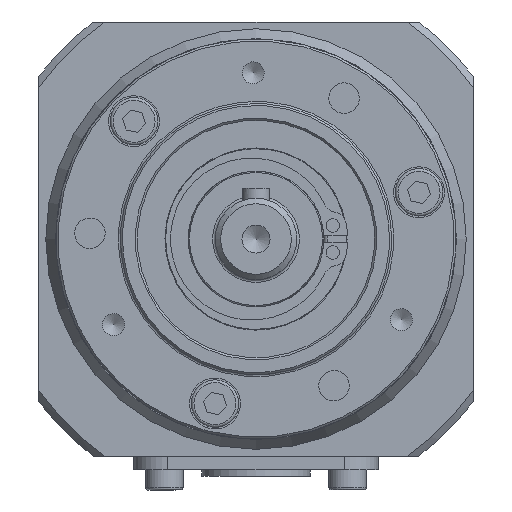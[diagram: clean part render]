
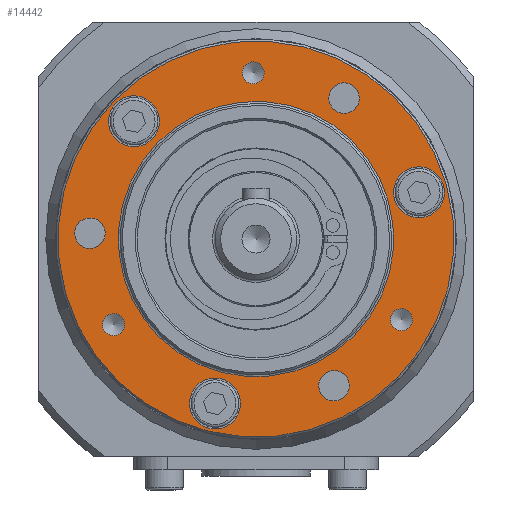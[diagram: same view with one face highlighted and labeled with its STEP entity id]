
A CAD part, left-side view. The second image highlights one B-rep face of the part: STEP entity #14442.
In plain terms, the highlighted planar face has unit normal (-1, 0, 0).
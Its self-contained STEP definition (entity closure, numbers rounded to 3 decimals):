
#3241=FACE_BOUND('',#4864,.T.);
#3242=FACE_BOUND('',#4865,.T.);
#3243=FACE_BOUND('',#4866,.T.);
#3244=FACE_BOUND('',#4867,.T.);
#3245=FACE_BOUND('',#4868,.T.);
#3246=FACE_BOUND('',#4869,.T.);
#3247=FACE_BOUND('',#4870,.T.);
#3248=FACE_BOUND('',#4871,.T.);
#3249=FACE_BOUND('',#4872,.T.);
#3250=FACE_BOUND('',#4873,.T.);
#3915=FACE_OUTER_BOUND('',#4863,.T.);
#4863=EDGE_LOOP('',(#11688));
#4864=EDGE_LOOP('',(#11689));
#4865=EDGE_LOOP('',(#11690));
#4866=EDGE_LOOP('',(#11691));
#4867=EDGE_LOOP('',(#11692));
#4868=EDGE_LOOP('',(#11693));
#4869=EDGE_LOOP('',(#11694));
#4870=EDGE_LOOP('',(#11695));
#4871=EDGE_LOOP('',(#11696));
#4872=EDGE_LOOP('',(#11697));
#4873=EDGE_LOOP('',(#11698));
#5410=CIRCLE('',#15316,2.25);
#5412=CIRCLE('',#15319,2.25);
#5414=CIRCLE('',#15322,2.25);
#5417=CIRCLE('',#15327,20.3);
#5418=CIRCLE('',#15329,29.2);
#5419=CIRCLE('',#15330,1.621);
#5420=CIRCLE('',#15331,1.621);
#5421=CIRCLE('',#15332,1.621);
#5422=CIRCLE('',#15333,3.75);
#5423=CIRCLE('',#15334,3.75);
#5424=CIRCLE('',#15335,3.75);
#6544=VERTEX_POINT('',#24318);
#6546=VERTEX_POINT('',#24323);
#6548=VERTEX_POINT('',#24328);
#6551=VERTEX_POINT('',#24336);
#6552=VERTEX_POINT('',#24339);
#6553=VERTEX_POINT('',#24341);
#6554=VERTEX_POINT('',#24343);
#6555=VERTEX_POINT('',#24345);
#6556=VERTEX_POINT('',#24347);
#6557=VERTEX_POINT('',#24349);
#6558=VERTEX_POINT('',#24351);
#8325=EDGE_CURVE('',#6544,#6544,#5410,.T.);
#8327=EDGE_CURVE('',#6546,#6546,#5412,.T.);
#8329=EDGE_CURVE('',#6548,#6548,#5414,.T.);
#8332=EDGE_CURVE('',#6551,#6551,#5417,.T.);
#8333=EDGE_CURVE('',#6552,#6552,#5418,.T.);
#8334=EDGE_CURVE('',#6553,#6553,#5419,.T.);
#8335=EDGE_CURVE('',#6554,#6554,#5420,.T.);
#8336=EDGE_CURVE('',#6555,#6555,#5421,.T.);
#8337=EDGE_CURVE('',#6556,#6556,#5422,.T.);
#8338=EDGE_CURVE('',#6557,#6557,#5423,.T.);
#8339=EDGE_CURVE('',#6558,#6558,#5424,.T.);
#11688=ORIENTED_EDGE('',*,*,#8333,.F.);
#11689=ORIENTED_EDGE('',*,*,#8325,.T.);
#11690=ORIENTED_EDGE('',*,*,#8327,.T.);
#11691=ORIENTED_EDGE('',*,*,#8329,.T.);
#11692=ORIENTED_EDGE('',*,*,#8334,.T.);
#11693=ORIENTED_EDGE('',*,*,#8335,.T.);
#11694=ORIENTED_EDGE('',*,*,#8336,.T.);
#11695=ORIENTED_EDGE('',*,*,#8337,.T.);
#11696=ORIENTED_EDGE('',*,*,#8338,.T.);
#11697=ORIENTED_EDGE('',*,*,#8339,.T.);
#11698=ORIENTED_EDGE('',*,*,#8332,.F.);
#12926=PLANE('',#15328);
#14442=ADVANCED_FACE('',(#3915,#3241,#3242,#3243,#3244,#3245,#3246,#3247,
#3248,#3249,#3250),#12926,.T.);
#15316=AXIS2_PLACEMENT_3D('',#24319,#17727,#17728);
#15319=AXIS2_PLACEMENT_3D('',#24324,#17733,#17734);
#15322=AXIS2_PLACEMENT_3D('',#24329,#17739,#17740);
#15327=AXIS2_PLACEMENT_3D('',#24337,#17749,#17750);
#15328=AXIS2_PLACEMENT_3D('',#24338,#17751,#17752);
#15329=AXIS2_PLACEMENT_3D('',#24340,#17753,#17754);
#15330=AXIS2_PLACEMENT_3D('',#24342,#17755,#17756);
#15331=AXIS2_PLACEMENT_3D('',#24344,#17757,#17758);
#15332=AXIS2_PLACEMENT_3D('',#24346,#17759,#17760);
#15333=AXIS2_PLACEMENT_3D('',#24348,#17761,#17762);
#15334=AXIS2_PLACEMENT_3D('',#24350,#17763,#17764);
#15335=AXIS2_PLACEMENT_3D('',#24352,#17765,#17766);
#17727=DIRECTION('center_axis',(1.,0.,0.));
#17728=DIRECTION('ref_axis',(0.,0.276,0.961));
#17733=DIRECTION('center_axis',(1.,0.,0.));
#17734=DIRECTION('ref_axis',(0.,0.276,0.961));
#17739=DIRECTION('center_axis',(1.,0.,0.));
#17740=DIRECTION('ref_axis',(0.,0.276,0.961));
#17749=DIRECTION('center_axis',(-1.,0.,0.));
#17750=DIRECTION('ref_axis',(0.,-0.961,0.276));
#17751=DIRECTION('center_axis',(-1.,0.,0.));
#17752=DIRECTION('ref_axis',(0.,0.276,0.961));
#17753=DIRECTION('center_axis',(1.,0.,0.));
#17754=DIRECTION('ref_axis',(0.,-0.961,0.276));
#17755=DIRECTION('center_axis',(1.,0.,0.));
#17756=DIRECTION('ref_axis',(0.,0.276,0.961));
#17757=DIRECTION('center_axis',(1.,0.,0.));
#17758=DIRECTION('ref_axis',(0.,0.276,0.961));
#17759=DIRECTION('center_axis',(1.,0.,0.));
#17760=DIRECTION('ref_axis',(0.,0.276,0.961));
#17761=DIRECTION('center_axis',(1.,0.,0.));
#17762=DIRECTION('ref_axis',(0.,0.276,0.961));
#17763=DIRECTION('center_axis',(1.,0.,0.));
#17764=DIRECTION('ref_axis',(0.,0.276,0.961));
#17765=DIRECTION('center_axis',(1.,0.,0.));
#17766=DIRECTION('ref_axis',(0.,0.276,0.961));
#24318=CARTESIAN_POINT('',(3.,-12.122,-23.795));
#24319=CARTESIAN_POINT('Origin',(3.,-11.502,-21.632));
#24323=CARTESIAN_POINT('',(3.,-13.603,18.614));
#24324=CARTESIAN_POINT('Origin',(3.,-12.983,20.777));
#24328=CARTESIAN_POINT('',(3.,23.865,-1.308));
#24329=CARTESIAN_POINT('Origin',(3.,24.485,0.855));
#24336=CARTESIAN_POINT('',(3.,19.514,-5.595));
#24337=CARTESIAN_POINT('Origin',(3.,0.,
0.));
#24338=CARTESIAN_POINT('Origin',(3.,23.791,-6.822));
#24339=CARTESIAN_POINT('',(3.,28.069,-8.049));
#24340=CARTESIAN_POINT('Origin',(3.,0.,
0.));
#24341=CARTESIAN_POINT('',(3.,-0.019,22.938));
#24342=CARTESIAN_POINT('Origin',(3.,0.428,24.496));
#24343=CARTESIAN_POINT('',(3.,20.554,-14.177));
#24344=CARTESIAN_POINT('Origin',(3.,21.001,-12.618));
#24345=CARTESIAN_POINT('',(3.,-21.875,-13.436));
#24346=CARTESIAN_POINT('Origin',(3.,-21.428,-11.878));
#24347=CARTESIAN_POINT('',(3.,16.95,13.762));
#24348=CARTESIAN_POINT('Origin',(3.,17.983,17.366));
#24349=CARTESIAN_POINT('',(3.,5.014,-27.862));
#24350=CARTESIAN_POINT('Origin',(3.,6.048,-24.257));
#24351=CARTESIAN_POINT('',(3.,-25.065,3.286));
#24352=CARTESIAN_POINT('Origin',(3.,-24.032,6.891));
